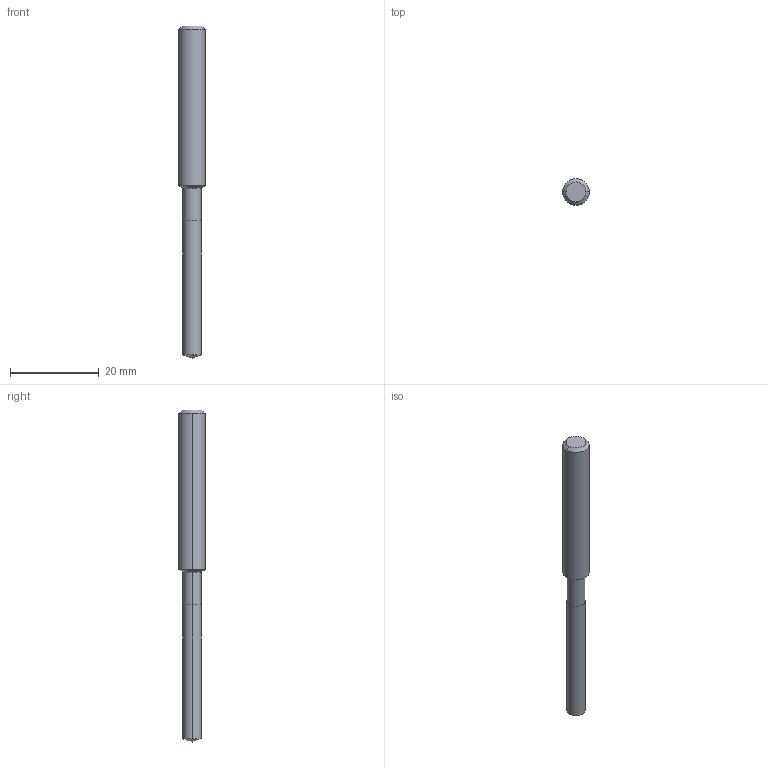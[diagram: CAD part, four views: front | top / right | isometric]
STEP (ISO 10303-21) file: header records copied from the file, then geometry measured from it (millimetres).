
FILE_DESCRIPTION(('STEP AP214'),'1');
FILE_NAME('cctmp_3B367D4B-5300-4B81-84A8-83A4DA6E623A_2020_11_02_13_40_15_0665..stp','2020-11-02T12:40:15',('Meusburger Georg GmbH & Co KG'),('CADClick - www.CADClick.com'),'Spatial InterOp 3D',' ','unknown authorization');
FILE_SCHEMA(('AUTOMOTIVE_DESIGN { 1 0 10303 214 1 1 1 1 }'));
Length unit declared in the file: millimetre
Products named in the file (1): WZB10223_4.1
Bounding box: 6 x 6 x 75 mm (x, y, z)
Volume: 1525.1 mm3; surface area: 1214.2 mm2
Topology: 1 solids, 1 shells, 14 faces, 28 edges, 15 vertices
Faces by surface type: cylinder 6, cone 6, plane 2
Entity records: 484 total; most frequent: DIRECTION 70, CARTESIAN_POINT 56, ORIENTED_EDGE 52, AXIS2_PLACEMENT_3D 29, EDGE_CURVE 26, STYLED_ITEM 15, PRESENTATION_STYLE_ASSIGNMENT 15, SURFACE_STYLE_USAGE 15
